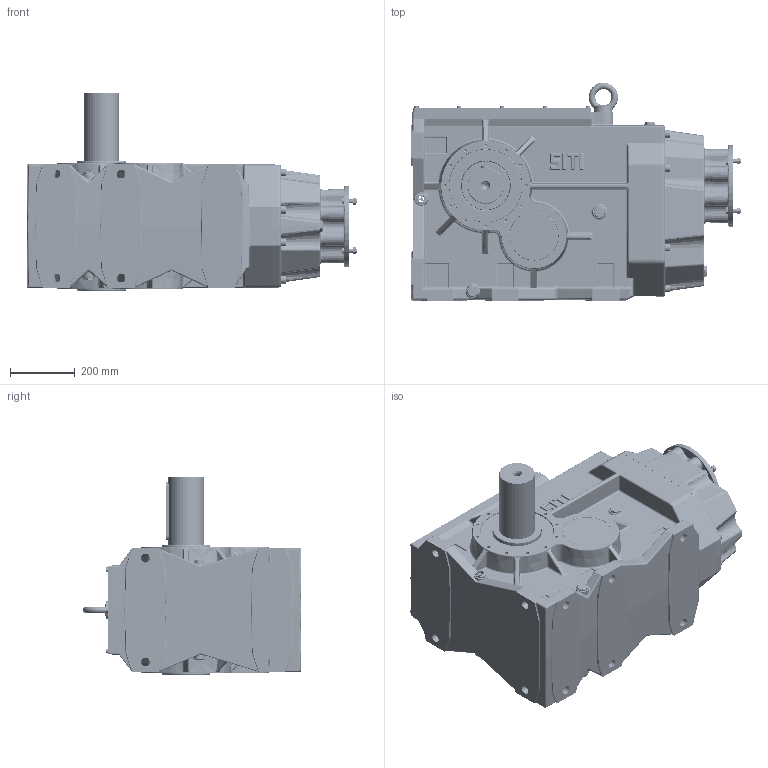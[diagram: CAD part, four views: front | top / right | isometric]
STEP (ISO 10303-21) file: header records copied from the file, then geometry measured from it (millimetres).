
FILE_DESCRIPTION((''),'2;1');
FILE_NAME('O:\Figurini\Figurini BH\3D\200\MBHGC 200 MS-B GR 100-112 B5.stp','2013-05-28T15:44:12',('d.iannaccio'),(''),'Autodesk Inventor 2012','Autodesk Inventor 2012','');
FILE_SCHEMA(('AUTOMOTIVE_DESIGN { 1 0 10303 214 1 1 1 1 }'));
Length unit declared in the file: millimetre
Products named in the file (1): MBHGC_200 MS-B GR 100-112 B5
Bounding box: 1016.5 x 672.99 x 610 mm (x, y, z)
Volume: 57009477.4 mm3; surface area: 5224916 mm2
Topology: 3 solids, 63 shells, 4120 faces, 9758 edges, 5834 vertices
Faces by surface type: cylinder 1273, plane 1203, bspline 671, torus 428, cone 382, sphere 163
Full cylindrical faces by diameter (mm): 2.4 x1, 6.647 x13, 8 x25, 9 x12, 10 x18, 10.106 x24, 10.5 x2, 12 x24, 13 x20, 13.835 x8, 14 x4, 16 x8, 17 x9, 17.25 x2, 18 x9, 19.6 x1, 20 x4, 20.5 x8, 20.752 x2, 21 x2, 22 x1, 24 x8, 24.117 x8, 25 x1, 26 x1, 26.5 x2, 27 x10, 31 x7, 31.9 x1, 40 x1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
Entity records: 141643 total; most frequent: CARTESIAN_POINT 49741, DIRECTION 18199, ORIENTED_EDGE 17576, EDGE_CURVE 8788, AXIS2_PLACEMENT_3D 7511, VERTEX_POINT 5550, EDGE_LOOP 5009, STYLED_ITEM 4122
